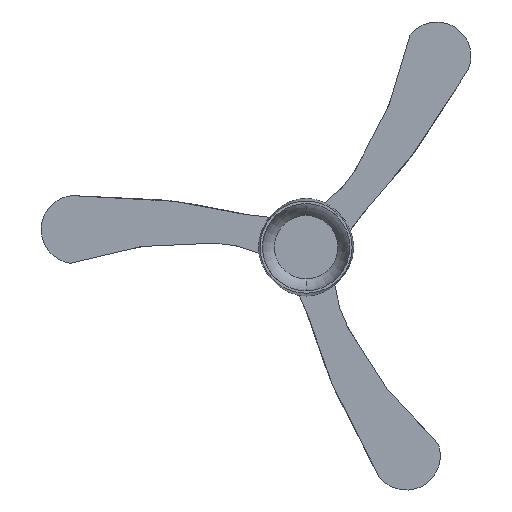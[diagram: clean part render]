
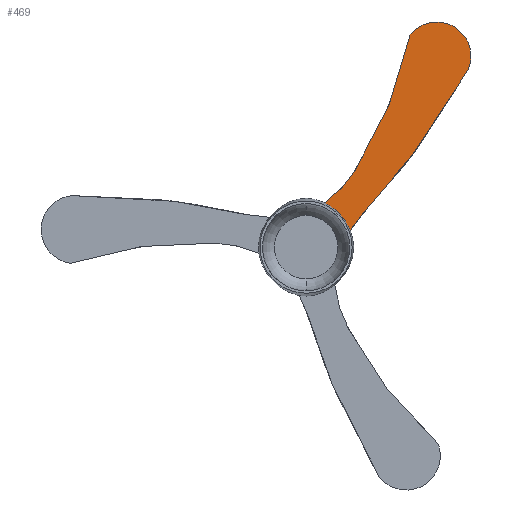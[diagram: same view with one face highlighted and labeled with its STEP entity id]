
A CAD part, front view. The second image highlights one B-rep face of the part: STEP entity #469.
In plain terms, the highlighted planar face has unit normal (0, -1, 0).
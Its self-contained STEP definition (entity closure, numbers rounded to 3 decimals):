
#9 = DIRECTION ( 'NONE',  ( 0., 1., 0. ) ) ;
#59 = DIRECTION ( 'NONE',  ( 0., 0., -1. ) ) ;
#96 = EDGE_CURVE ( 'NONE', #1384, #888, #1064, .T. ) ;
#110 = CARTESIAN_POINT ( 'NONE',  ( 262.414, -30., 452.065 ) ) ;
#125 = EDGE_LOOP ( 'NONE', ( #812, #2135, #1274, #1417, #182 ) ) ;
#144 = CARTESIAN_POINT ( 'NONE',  ( 198.372, -30., 391.307 ) ) ;
#158 = CARTESIAN_POINT ( 'NONE',  ( -1.824, -30., 140.898 ) ) ;
#182 = ORIENTED_EDGE ( 'NONE', *, *, #96, .F. ) ;
#197 = DIRECTION ( 'NONE',  ( 0., 0., 1. ) ) ;
#316 = DIRECTION ( 'NONE',  ( 0., -1., 0. ) ) ;
#339 = CARTESIAN_POINT ( 'NONE',  ( 104.305, -30., 155.239 ) ) ;
#410 = CIRCLE ( 'NONE', #1150, 68.541 ) ;
#469 = ADVANCED_FACE ( 'NONE', ( #2525 ), #2103, .F. ) ;
#496 = B_SPLINE_CURVE_WITH_KNOTS ( 'NONE', 3,
 ( #1655, #1704, #1929, #339, #1156, #1913, #1902, #144, #1306 ),
 .UNSPECIFIED., .F., .F.,
 ( 4, 1, 1, 1, 1, 1, 4 ),
 ( 416.198, 450.873, 506.67, 610.37, 648.457, 704.831, 812.482 ),
 .UNSPECIFIED. ) ;
#784 = CARTESIAN_POINT ( 'NONE',  ( 325.173, -30., 355.972 ) ) ;
#809 = CARTESIAN_POINT ( 'NONE',  ( 262.414, -30., 383.524 ) ) ;
#812 = ORIENTED_EDGE ( 'NONE', *, *, #1735, .F. ) ;
#835 = B_SPLINE_CURVE_WITH_KNOTS ( 'NONE', 3,
 ( #1950, #1344, #1756, #962, #2131, #1927, #1387, #2370 ),
 .UNSPECIFIED., .F., .F.,
 ( 4, 1, 1, 1, 1, 4 ),
 ( 0., 83.591, 147.588, 240.041, 372.295, 412.507 ),
 .UNSPECIFIED. ) ;
#849 = VERTEX_POINT ( 'NONE', #1867 ) ;
#885 = CARTESIAN_POINT ( 'NONE',  ( 81.534, -30., 24.025 ) ) ;
#888 = VERTEX_POINT ( 'NONE', #110 ) ;
#897 = EDGE_CURVE ( 'NONE', #1505, #849, #2163, .T. ) ;
#962 = CARTESIAN_POINT ( 'NONE',  ( 241.738, -30., 222.891 ) ) ;
#1064 = CIRCLE ( 'NONE', #1798, 68.541 ) ;
#1124 = EDGE_CURVE ( 'NONE', #888, #1578, #410, .T. ) ;
#1150 = AXIS2_PLACEMENT_3D ( 'NONE', #1941, #2310, #197 ) ;
#1156 = CARTESIAN_POINT ( 'NONE',  ( 130.313, -30., 216.435 ) ) ;
#1158 = EDGE_CURVE ( 'NONE', #1578, #1505, #835, .T. ) ;
#1274 = ORIENTED_EDGE ( 'NONE', *, *, #1158, .F. ) ;
#1306 = CARTESIAN_POINT ( 'NONE',  ( 208.551, -30., 425.91 ) ) ;
#1335 = DIRECTION ( 'NONE',  ( 0., 0., 1. ) ) ;
#1344 = CARTESIAN_POINT ( 'NONE',  ( 310.372, -30., 332.365 ) ) ;
#1384 = VERTEX_POINT ( 'NONE', #1422 ) ;
#1387 = CARTESIAN_POINT ( 'NONE',  ( 89.248, -30., 34.999 ) ) ;
#1417 = ORIENTED_EDGE ( 'NONE', *, *, #1124, .F. ) ;
#1422 = CARTESIAN_POINT ( 'NONE',  ( 208.551, -30., 425.91 ) ) ;
#1505 = VERTEX_POINT ( 'NONE', #885 ) ;
#1578 = VERTEX_POINT ( 'NONE', #784 ) ;
#1605 = DIRECTION ( 'NONE',  ( 0., 0., 1. ) ) ;
#1655 = CARTESIAN_POINT ( 'NONE',  ( 28.294, -30., 80.153 ) ) ;
#1704 = CARTESIAN_POINT ( 'NONE',  ( 37.292, -30., 87.409 ) ) ;
#1735 = EDGE_CURVE ( 'NONE', #849, #1384, #496, .T. ) ;
#1756 = CARTESIAN_POINT ( 'NONE',  ( 284.24, -30., 290.683 ) ) ;
#1798 = AXIS2_PLACEMENT_3D ( 'NONE', #809, #1974, #1605 ) ;
#1867 = CARTESIAN_POINT ( 'NONE',  ( 28.294, -30., 80.153 ) ) ;
#1902 = CARTESIAN_POINT ( 'NONE',  ( 182.862, -30., 338.582 ) ) ;
#1913 = CARTESIAN_POINT ( 'NONE',  ( 163.751, -30., 273.614 ) ) ;
#1927 = CARTESIAN_POINT ( 'NONE',  ( 122.332, -30., 82.064 ) ) ;
#1929 = CARTESIAN_POINT ( 'NONE',  ( 60.769, -30., 106.34 ) ) ;
#1941 = CARTESIAN_POINT ( 'NONE',  ( 262.414, -30., 383.524 ) ) ;
#1950 = CARTESIAN_POINT ( 'NONE',  ( 325.173, -30., 355.972 ) ) ;
#1974 = DIRECTION ( 'NONE',  ( 0., 1., 0. ) ) ;
#2013 = CARTESIAN_POINT ( 'NONE',  ( 0., -30., 0. ) ) ;
#2030 = AXIS2_PLACEMENT_3D ( 'NONE', #2013, #316, #59 ) ;
#2103 = PLANE ( 'NONE',  #2116 ) ;
#2116 = AXIS2_PLACEMENT_3D ( 'NONE', #158, #9, #1335 ) ;
#2131 = CARTESIAN_POINT ( 'NONE',  ( 184.977, -30., 144.929 ) ) ;
#2135 = ORIENTED_EDGE ( 'NONE', *, *, #897, .F. ) ;
#2163 = CIRCLE ( 'NONE', #2030, 85. ) ;
#2310 = DIRECTION ( 'NONE',  ( 0., 1., 0. ) ) ;
#2370 = CARTESIAN_POINT ( 'NONE',  ( 81.534, -30., 24.025 ) ) ;
#2525 = FACE_OUTER_BOUND ( 'NONE', #125, .T. ) ;
